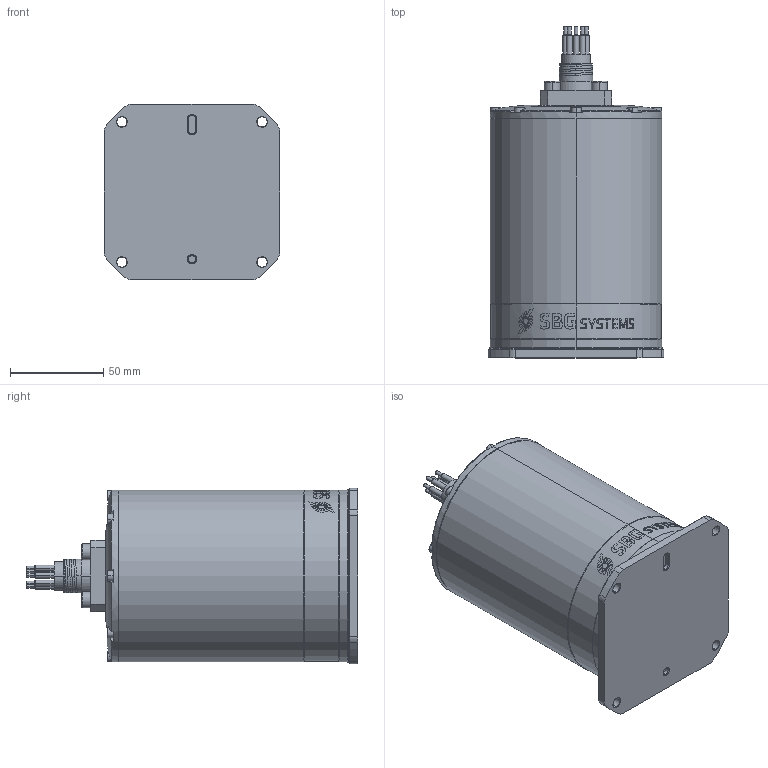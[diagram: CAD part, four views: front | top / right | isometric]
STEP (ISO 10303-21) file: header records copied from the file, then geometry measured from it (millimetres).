
FILE_DESCRIPTION (( 'STEP AP214' ), '1' );
FILE_NAME ('Navsight-Apogee-U.STEP', '2017-07-27T08:03:43', ( '' ), ( '' ), 'SwSTEP 2.0', 'SolidWorks 2016', '' );
FILE_SCHEMA (( 'AUTOMOTIVE_DESIGN' ));
Length unit declared in the file: millimetre
Products named in the file (1): Navsight-Apogee-U
Bounding box: 94 x 177.5 x 94 mm (x, y, z)
Volume: 917067.3 mm3; surface area: 60453.6 mm2
Topology: 1 solids, 1 shells, 913 faces, 2295 edges, 1440 vertices
Faces by surface type: plane 398, bspline 230, cylinder 150, cone 95, torus 40
Entity records: 38550 total; most frequent: CARTESIAN_POINT 18425, ORIENTED_EDGE 4542, DIRECTION 3431, EDGE_CURVE 2271, VERTEX_POINT 1440, AXIS2_PLACEMENT_3D 1171, VECTOR 1089, LINE 1089
